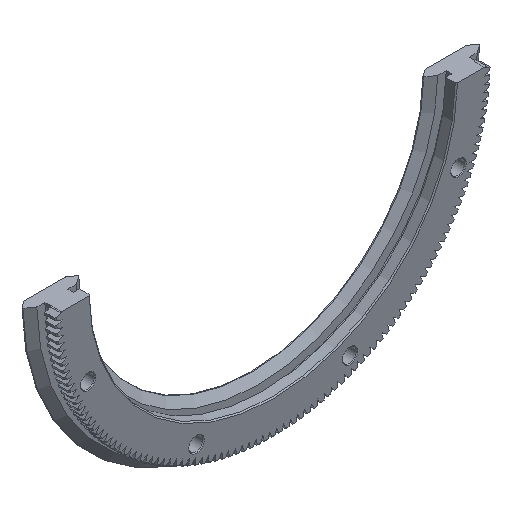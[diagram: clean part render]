
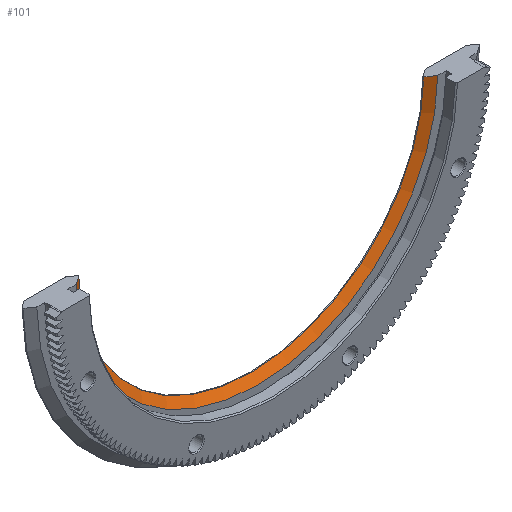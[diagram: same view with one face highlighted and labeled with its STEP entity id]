
A CAD part, isometric view. The second image highlights one B-rep face of the part: STEP entity #101.
In plain terms, the highlighted conical face has half-angle 55 degrees and reference radius 61.526 mm.
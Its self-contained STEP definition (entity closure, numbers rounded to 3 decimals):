
#101 = ADVANCED_FACE( '', ( #745 ), #746, .F. );
#745 = FACE_OUTER_BOUND( '', #1986, .T. );
#746 = CONICAL_SURFACE( '', #1987, 61.526, 0.96 );
#1986 = EDGE_LOOP( '', ( #3565, #3566, #3567, #3568 ) );
#1987 = AXIS2_PLACEMENT_3D( '', #3569, #3570, #3571 );
#3565 = ORIENTED_EDGE( '', *, *, #8463, .T. );
#3566 = ORIENTED_EDGE( '', *, *, #8448, .T. );
#3567 = ORIENTED_EDGE( '', *, *, #8464, .F. );
#3568 = ORIENTED_EDGE( '', *, *, #8204, .T. );
#3569 = CARTESIAN_POINT( '', ( 0., 7.853, 0. ) );
#3570 = DIRECTION( '', ( 0., -1., 0. ) );
#3571 = DIRECTION( '', ( 0., 0., -1. ) );
#8204 = EDGE_CURVE( '', #9820, #9818, #9821, .T. );
#8448 = EDGE_CURVE( '', #10292, #10290, #10293, .T. );
#8463 = EDGE_CURVE( '', #9818, #10292, #10317, .T. );
#8464 = EDGE_CURVE( '', #9820, #10290, #10318, .T. );
#9818 = VERTEX_POINT( '', #12444 );
#9820 = VERTEX_POINT( '', #12447 );
#9821 = B_SPLINE_CURVE_WITH_KNOTS( '', 3, ( #12448, #12449, #12450, #12451 ), .UNSPECIFIED., .F., .F., ( 4, 4 ), ( 0.247, 0.25 ), .UNSPECIFIED. );
#10290 = VERTEX_POINT( '', #12981 );
#10292 = VERTEX_POINT( '', #12988 );
#10293 = B_SPLINE_CURVE_WITH_KNOTS( '', 3, ( #12989, #12990, #12991, #12992 ), .UNSPECIFIED., .F., .F., ( 4, 4 ), ( 0.094, 0.098 ), .UNSPECIFIED. );
#10317 = CIRCLE( '', #13024, 64.457 );
#10318 = CIRCLE( '', #13025, 61.526 );
#12444 = CARTESIAN_POINT( '', ( -64.449, 5.8, -1. ) );
#12447 = CARTESIAN_POINT( '', ( -61.517, 7.853, -1. ) );
#12448 = CARTESIAN_POINT( '', ( -61.517, 7.853, -1. ) );
#12449 = CARTESIAN_POINT( '', ( -62.495, 7.168, -1. ) );
#12450 = CARTESIAN_POINT( '', ( -63.472, 6.484, -1. ) );
#12451 = CARTESIAN_POINT( '', ( -64.449, 5.8, -1. ) );
#12981 = CARTESIAN_POINT( '', ( 61.517, 7.853, -1. ) );
#12988 = CARTESIAN_POINT( '', ( 64.449, 5.8, -1. ) );
#12989 = CARTESIAN_POINT( '', ( 64.449, 5.8, -1. ) );
#12990 = CARTESIAN_POINT( '', ( 63.472, 6.484, -1. ) );
#12991 = CARTESIAN_POINT( '', ( 62.495, 7.168, -1. ) );
#12992 = CARTESIAN_POINT( '', ( 61.517, 7.853, -1. ) );
#13024 = AXIS2_PLACEMENT_3D( '', #17199, #17200, #17201 );
#13025 = AXIS2_PLACEMENT_3D( '', #17202, #17203, #17204 );
#17199 = CARTESIAN_POINT( '', ( 0., 5.8, 0. ) );
#17200 = DIRECTION( '', ( 0., -1., 0. ) );
#17201 = DIRECTION( '', ( 0., 0., -1. ) );
#17202 = CARTESIAN_POINT( '', ( 0., 7.853, 0. ) );
#17203 = DIRECTION( '', ( 0., -1., 0. ) );
#17204 = DIRECTION( '', ( 0., 0., -1. ) );
